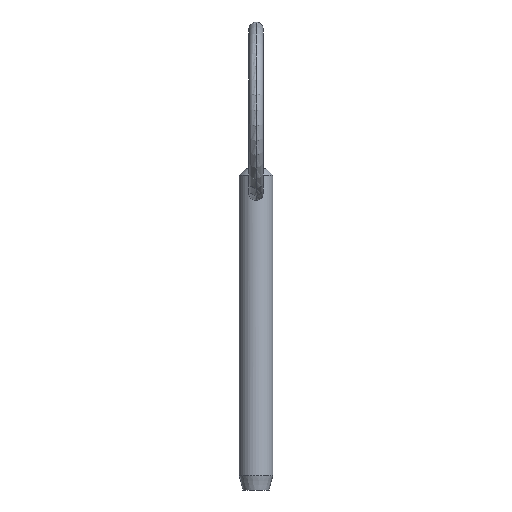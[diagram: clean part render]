
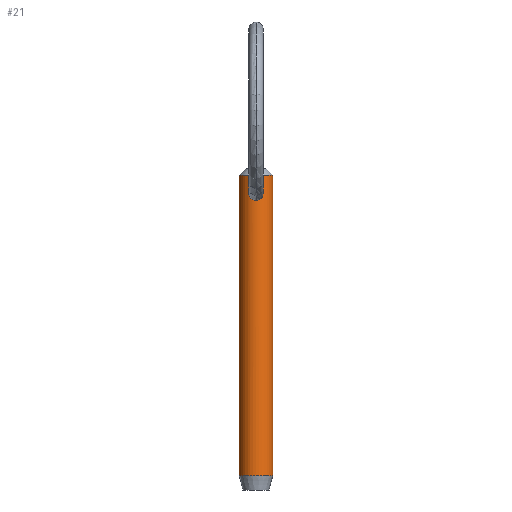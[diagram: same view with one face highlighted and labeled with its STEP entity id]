
A CAD part, front view. The second image highlights one B-rep face of the part: STEP entity #21.
In plain terms, the highlighted cylindrical face has radius 2.38 mm (diameter 4.76 mm), a partial arc.
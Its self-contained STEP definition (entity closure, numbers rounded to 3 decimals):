
#8 = CIRCLE ( 'NONE', #303, 2.38 ) ;
#19 = CARTESIAN_POINT ( 'NONE',  ( -0.982, -2.169, 36.565 ) ) ;
#21 = ADVANCED_FACE ( 'NONE', ( #284, #227 ), #86, .T. ) ;
#38 = CARTESIAN_POINT ( 'NONE',  ( -2.38, 0., 39.34 ) ) ;
#52 = DIRECTION ( 'NONE',  ( -1., 0., 0. ) ) ;
#56 = VERTEX_POINT ( 'NONE', #38 ) ;
#59 = CARTESIAN_POINT ( 'NONE',  ( -0.991, -2.164, 37.101 ) ) ;
#66 = CARTESIAN_POINT ( 'NONE',  ( 0.966, -2.176, 37.097 ) ) ;
#80 = DIRECTION ( 'NONE',  ( 0., 0., -1. ) ) ;
#82 = CARTESIAN_POINT ( 'NONE',  ( 0., -2.38, 35.825 ) ) ;
#86 = CYLINDRICAL_SURFACE ( 'NONE', #165, 2.38 ) ;
#96 = CARTESIAN_POINT ( 'NONE',  ( -0.267, -2.368, 37.837 ) ) ;
#97 = EDGE_CURVE ( 'NONE', #56, #207, #459, .T. ) ;
#99 = CARTESIAN_POINT ( 'NONE',  ( 0.981, -2.169, 36.564 ) ) ;
#105 = VERTEX_POINT ( 'NONE', #410 ) ;
#107 = CARTESIAN_POINT ( 'NONE',  ( 0.268, -2.368, 37.837 ) ) ;
#111 = LINE ( 'NONE', #339, #350 ) ;
#114 = VERTEX_POINT ( 'NONE', #221 ) ;
#116 = CARTESIAN_POINT ( 'NONE',  ( -2.38, 0., 35.6 ) ) ;
#120 = CARTESIAN_POINT ( 'NONE',  ( 0., 0., -3.08 ) ) ;
#128 = EDGE_CURVE ( 'NONE', #114, #105, #111, .T. ) ;
#129 = CIRCLE ( 'NONE', #358, 2.38 ) ;
#136 = CARTESIAN_POINT ( 'NONE',  ( -0.514, -2.327, 35.949 ) ) ;
#137 = CARTESIAN_POINT ( 'NONE',  ( 1.003, -2.158, 36.699 ) ) ;
#139 = CARTESIAN_POINT ( 'NONE',  ( 0.996, -2.162, 36.964 ) ) ;
#140 = CARTESIAN_POINT ( 'NONE',  ( 0.865, -2.218, 37.34 ) ) ;
#144 = ORIENTED_EDGE ( 'NONE', *, *, #97, .T. ) ;
#146 = DIRECTION ( 'NONE',  ( 0., 0., -1. ) ) ;
#162 = CARTESIAN_POINT ( 'NONE',  ( -0.613, -2.302, 37.646 ) ) ;
#165 = AXIS2_PLACEMENT_3D ( 'NONE', #249, #246, #291 ) ;
#168 = CARTESIAN_POINT ( 'NONE',  ( -0.626, -2.298, 36.022 ) ) ;
#171 = EDGE_CURVE ( 'NONE', #114, #56, #129, .T. ) ;
#173 = CARTESIAN_POINT ( 'NONE',  ( 0.625, -2.299, 36.021 ) ) ;
#175 = CARTESIAN_POINT ( 'NONE',  ( 0., -2.38, 35.825 ) ) ;
#189 = EDGE_CURVE ( 'NONE', #207, #105, #8, .T. ) ;
#193 = CARTESIAN_POINT ( 'NONE',  ( -0.811, -2.24, 36.206 ) ) ;
#195 = ORIENTED_EDGE ( 'NONE', *, *, #171, .T. ) ;
#207 = VERTEX_POINT ( 'NONE', #378 ) ;
#212 = CARTESIAN_POINT ( 'NONE',  ( 0.508, -2.328, 37.724 ) ) ;
#221 = CARTESIAN_POINT ( 'NONE',  ( 2.38, 0., 39.34 ) ) ;
#227 = FACE_BOUND ( 'NONE', #294, .T. ) ;
#234 = CARTESIAN_POINT ( 'NONE',  ( -0.885, -2.21, 36.317 ) ) ;
#235 = CARTESIAN_POINT ( 'NONE',  ( -0.268, -2.368, 35.851 ) ) ;
#240 = CARTESIAN_POINT ( 'NONE',  ( 0.615, -2.301, 37.644 ) ) ;
#241 = CARTESIAN_POINT ( 'NONE',  ( 0.133, -2.38, 35.825 ) ) ;
#244 = CARTESIAN_POINT ( 'NONE',  ( 0.134, -2.38, 37.868 ) ) ;
#246 = DIRECTION ( 'NONE',  ( 0., 0., -1. ) ) ;
#249 = CARTESIAN_POINT ( 'NONE',  ( 0., 0., 35.6 ) ) ;
#256 = ORIENTED_EDGE ( 'NONE', *, *, #372, .T. ) ;
#263 = ORIENTED_EDGE ( 'NONE', *, *, #128, .F. ) ;
#270 = CARTESIAN_POINT ( 'NONE',  ( 0., -2.38, 37.868 ) ) ;
#276 = CARTESIAN_POINT ( 'NONE',  ( -0.133, -2.38, 35.825 ) ) ;
#279 = CARTESIAN_POINT ( 'NONE',  ( 0., -2.38, 37.868 ) ) ;
#281 = CARTESIAN_POINT ( 'NONE',  ( 0.811, -2.24, 36.206 ) ) ;
#284 = FACE_OUTER_BOUND ( 'NONE', #301, .T. ) ;
#291 = DIRECTION ( 'NONE',  ( -1., 0., 0. ) ) ;
#294 = EDGE_LOOP ( 'NONE', ( #445, #256 ) ) ;
#295 = DIRECTION ( 'NONE',  ( 0., 0., -1. ) ) ;
#299 = CARTESIAN_POINT ( 'NONE',  ( 0., 0., 39.34 ) ) ;
#301 = EDGE_LOOP ( 'NONE', ( #263, #195, #144, #433 ) ) ;
#303 = AXIS2_PLACEMENT_3D ( 'NONE', #120, #343, #52 ) ;
#313 = CARTESIAN_POINT ( 'NONE',  ( -0.134, -2.38, 37.868 ) ) ;
#315 = CARTESIAN_POINT ( 'NONE',  ( -1.004, -2.158, 36.699 ) ) ;
#319 = B_SPLINE_CURVE_WITH_KNOTS ( 'NONE', 3,
 ( #270, #244, #107, #212, #240, #360, #140, #66, #139, #137, #99, #399, #281, #173, #355, #472, #241, #175 ),
 .UNSPECIFIED., .F., .F.,
 ( 4, 2, 2, 2, 2, 2, 2, 2, 4 ),
 ( 0.003, 0.003, 0.003, 0.004, 0.004, 0.005, 0.005, 0.005, 0.006 ),
 .UNSPECIFIED. ) ;
#322 = B_SPLINE_CURVE_WITH_KNOTS ( 'NONE', 3,
 ( #428, #276, #235, #136, #168, #193, #234, #19, #315, #59, #429, #162, #387, #96, #313, #467 ),
 .UNSPECIFIED., .F., .F.,
 ( 4, 2, 2, 2, 2, 2, 2, 4 ),
 ( 0.006, 0.006, 0.007, 0.007, 0.007, 0.008, 0.009, 0.009 ),
 .UNSPECIFIED. ) ;
#335 = VERTEX_POINT ( 'NONE', #82 ) ;
#338 = DIRECTION ( 'NONE',  ( 1., 0., 0. ) ) ;
#339 = CARTESIAN_POINT ( 'NONE',  ( 2.38, 0., 35.6 ) ) ;
#343 = DIRECTION ( 'NONE',  ( 0., 0., 1. ) ) ;
#350 = VECTOR ( 'NONE', #146, 1000. ) ;
#355 = CARTESIAN_POINT ( 'NONE',  ( 0.513, -2.327, 35.948 ) ) ;
#358 = AXIS2_PLACEMENT_3D ( 'NONE', #299, #80, #338 ) ;
#360 = CARTESIAN_POINT ( 'NONE',  ( 0.793, -2.246, 37.452 ) ) ;
#372 = EDGE_CURVE ( 'NONE', #335, #430, #322, .T. ) ;
#378 = CARTESIAN_POINT ( 'NONE',  ( -2.38, 0., -3.08 ) ) ;
#387 = CARTESIAN_POINT ( 'NONE',  ( -0.505, -2.329, 37.726 ) ) ;
#399 = CARTESIAN_POINT ( 'NONE',  ( 0.885, -2.21, 36.317 ) ) ;
#402 = VECTOR ( 'NONE', #295, 1000. ) ;
#410 = CARTESIAN_POINT ( 'NONE',  ( 2.38, 0., -3.08 ) ) ;
#428 = CARTESIAN_POINT ( 'NONE',  ( 0., -2.38, 35.825 ) ) ;
#429 = CARTESIAN_POINT ( 'NONE',  ( -0.88, -2.219, 37.36 ) ) ;
#430 = VERTEX_POINT ( 'NONE', #279 ) ;
#433 = ORIENTED_EDGE ( 'NONE', *, *, #189, .T. ) ;
#437 = EDGE_CURVE ( 'NONE', #430, #335, #319, .T. ) ;
#445 = ORIENTED_EDGE ( 'NONE', *, *, #437, .T. ) ;
#459 = LINE ( 'NONE', #116, #402 ) ;
#467 = CARTESIAN_POINT ( 'NONE',  ( 0., -2.38, 37.868 ) ) ;
#472 = CARTESIAN_POINT ( 'NONE',  ( 0.268, -2.368, 35.851 ) ) ;
